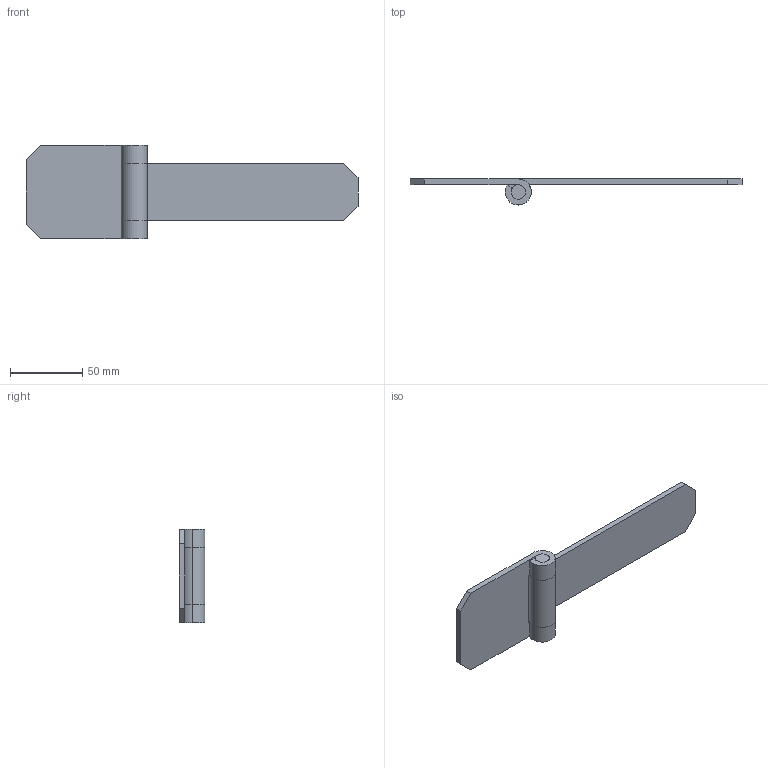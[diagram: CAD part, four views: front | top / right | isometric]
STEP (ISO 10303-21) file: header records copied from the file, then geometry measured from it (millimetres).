
FILE_DESCRIPTION((''),'2;1');
FILE_NAME('6054.01.stp','2015-07-20T11:14:26',(''),(''),'Mechanical Desktop 2006','Mechanical Desktop 2006',', , ');
FILE_SCHEMA(('CONFIG_CONTROL_DESIGN'));
Length unit declared in the file: millimetre
Products named in the file (1): 6054.01
Bounding box: 230 x 18 x 65 mm (x, y, z)
Volume: 56802.5 mm3; surface area: 29477.6 mm2
Topology: 2 solids, 2 shells, 40 faces, 108 edges, 72 vertices
Faces by surface type: plane 22, cylinder 18
Entity records: 1365 total; most frequent: DIRECTION 230, CARTESIAN_POINT 221, ORIENTED_EDGE 216, EDGE_CURVE 108, AXIS2_PLACEMENT_3D 81, VERTEX_POINT 72, VECTOR 68, LINE 68
